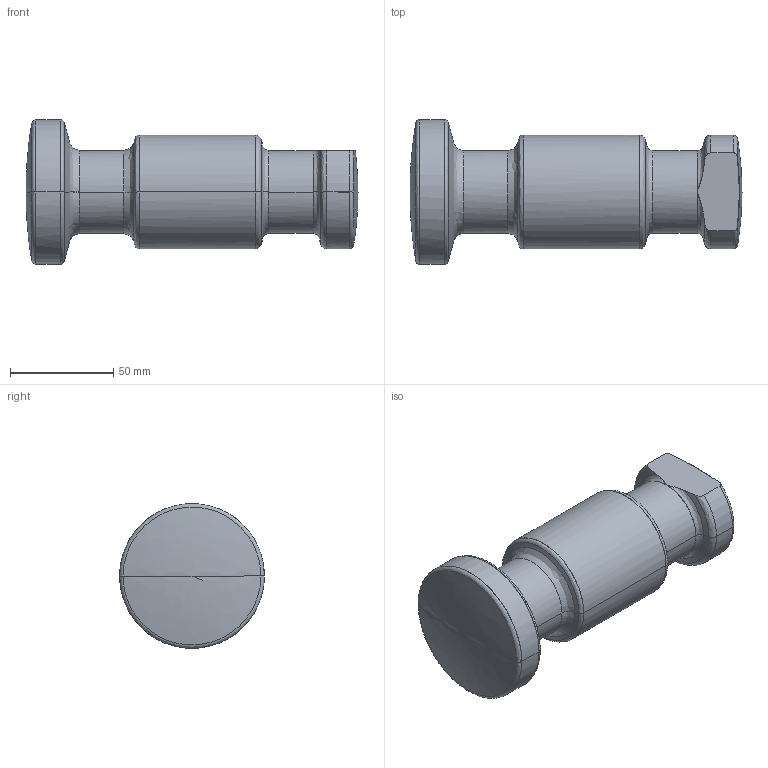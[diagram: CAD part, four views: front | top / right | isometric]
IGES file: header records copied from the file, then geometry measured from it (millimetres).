
Global section: file name: E:\UnigraphicsGraphicData\MISUMI_PRESS-PARTS\IGES\3d_chf40_03516_r00.igs; native system: NX V5.0; preprocessor: UGS NX IGES V5.0; author: MISUMI; date: 20110105.160216; units: millimetre
Bounding box: 160.5 x 70 x 69.81 mm (x, y, z)
Surface area: 34203.7 mm2 (no closed solid volume)
Topology: 0 solids, 0 shells, 48 faces, 215 edges, 211 vertices
Faces by surface type: bspline 48
